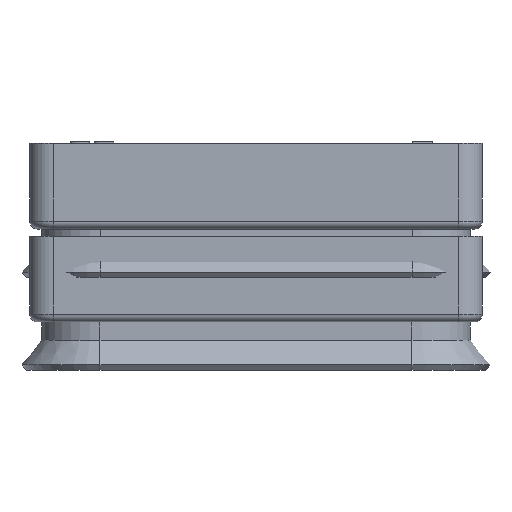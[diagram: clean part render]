
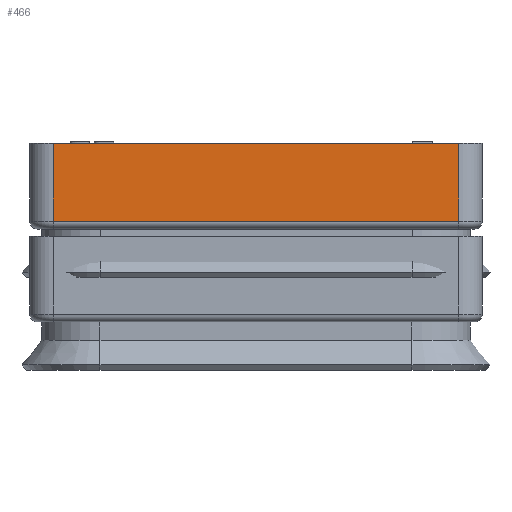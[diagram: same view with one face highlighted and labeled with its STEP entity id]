
A CAD part, front view. The second image highlights one B-rep face of the part: STEP entity #466.
In plain terms, the highlighted planar face has unit normal (0, -1, 0).
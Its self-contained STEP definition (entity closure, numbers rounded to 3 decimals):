
#466 = ADVANCED_FACE( '', ( #950 ), #951, .F. );
#950 = FACE_OUTER_BOUND( '', #1512, .T. );
#951 = PLANE( '', #1513 );
#1512 = EDGE_LOOP( '', ( #3126, #3127, #3128, #3129 ) );
#1513 = AXIS2_PLACEMENT_3D( '', #3130, #3131, #3132 );
#3126 = ORIENTED_EDGE( '', *, *, #3452, .T. );
#3127 = ORIENTED_EDGE( '', *, *, #3526, .T. );
#3128 = ORIENTED_EDGE( '', *, *, #3462, .F. );
#3129 = ORIENTED_EDGE( '', *, *, #3567, .F. );
#3130 = CARTESIAN_POINT( '', ( -26., -9., 11. ) );
#3131 = DIRECTION( '', ( 0., 1., 0. ) );
#3132 = DIRECTION( '', ( 0., 0., 1. ) );
#3452 = EDGE_CURVE( '', #4140, #4047, #4141, .T. );
#3462 = EDGE_CURVE( '', #4153, #3697, #4154, .T. );
#3526 = EDGE_CURVE( '', #4047, #3697, #4236, .T. );
#3567 = EDGE_CURVE( '', #4140, #4153, #4283, .T. );
#3697 = VERTEX_POINT( '', #4497 );
#4047 = VERTEX_POINT( '', #5276 );
#4140 = VERTEX_POINT( '', #5578 );
#4141 = LINE( '', #5579, #5580 );
#4153 = VERTEX_POINT( '', #5595 );
#4154 = LINE( '', #5596, #5597 );
#4236 = LINE( '', #5761, #5762 );
#4283 = LINE( '', #5912, #5913 );
#4497 = CARTESIAN_POINT( '', ( 26., -9., 1. ) );
#5276 = CARTESIAN_POINT( '', ( -26., -9., 1. ) );
#5578 = CARTESIAN_POINT( '', ( -26., -9., 11. ) );
#5579 = CARTESIAN_POINT( '', ( -26., -9., 11. ) );
#5580 = VECTOR( '', #6268, 1000. );
#5595 = CARTESIAN_POINT( '', ( 26., -9., 11. ) );
#5596 = CARTESIAN_POINT( '', ( 26., -9., 11. ) );
#5597 = VECTOR( '', #6281, 1000. );
#5761 = CARTESIAN_POINT( '', ( -26., -9., 1. ) );
#5762 = VECTOR( '', #6324, 1000. );
#5912 = CARTESIAN_POINT( '', ( -26., -9., 11. ) );
#5913 = VECTOR( '', #6347, 1000. );
#6268 = DIRECTION( '', ( 0., 0., -1. ) );
#6281 = DIRECTION( '', ( 0., 0., -1. ) );
#6324 = DIRECTION( '', ( 1., 0., 0. ) );
#6347 = DIRECTION( '', ( 1., 0., 0. ) );
